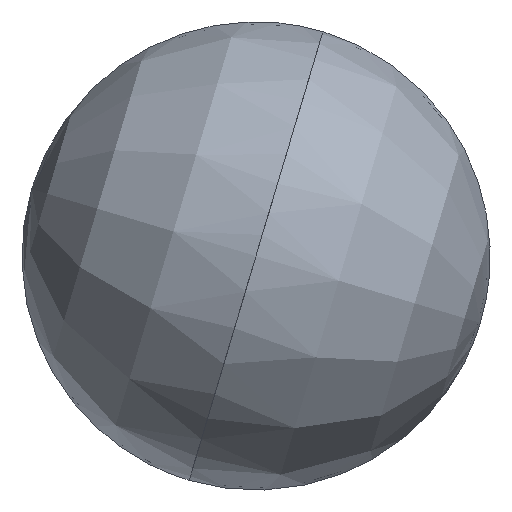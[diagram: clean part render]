
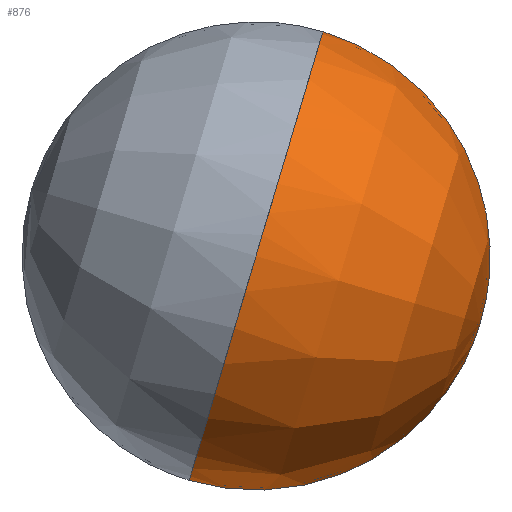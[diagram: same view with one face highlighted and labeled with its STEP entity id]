
A CAD part, front view. The second image highlights one B-rep face of the part: STEP entity #876.
In plain terms, the highlighted free-form (B-spline) face has degree [2, 2] with [5, 5] control points.
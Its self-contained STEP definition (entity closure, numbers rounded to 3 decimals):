
#876=ADVANCED_FACE('',(#2322),#23518,.T.);
#2322=FACE_OUTER_BOUND('',#3768,.T.);
#3768=EDGE_LOOP('',(#5325,#5326,#5327,#5328));
#5325=ORIENTED_EDGE('',*,*,#12878,.T.);
#5326=ORIENTED_EDGE('',*,*,#12808,.F.);
#5327=ORIENTED_EDGE('',*,*,#12804,.T.);
#5328=ORIENTED_EDGE('',*,*,#12805,.T.);
#12804=EDGE_CURVE('',#20277,#20278,#19551,.T.);
#12805=EDGE_CURVE('',#20278,#20316,#19552,.T.);
#12808=EDGE_CURVE('',#20277,#20275,#19555,.T.);
#12878=EDGE_CURVE('',#20316,#20275,#19584,.T.);
#19551=(
BOUNDED_CURVE()
B_SPLINE_CURVE(2,(#26567,#26568,#26569),.UNSPECIFIED.,.F.,.F.)
B_SPLINE_CURVE_WITH_KNOTS((3,3),(305.438,698.137),
 .UNSPECIFIED.)
CURVE()
GEOMETRIC_REPRESENTATION_ITEM()
RATIONAL_B_SPLINE_CURVE((1.,0.707,1.))
REPRESENTATION_ITEM('')
);
#19552=(
BOUNDED_CURVE()
B_SPLINE_CURVE(2,(#26570,#26571,#26572),.UNSPECIFIED.,.F.,.F.)
B_SPLINE_CURVE_WITH_KNOTS((3,3),(0.,392.699),.UNSPECIFIED.)
CURVE()
GEOMETRIC_REPRESENTATION_ITEM()
RATIONAL_B_SPLINE_CURVE((1.,0.707,1.))
REPRESENTATION_ITEM('')
);
#19555=(
BOUNDED_CURVE()
B_SPLINE_CURVE(2,(#26579,#26580,#26581),.UNSPECIFIED.,.F.,.F.)
B_SPLINE_CURVE_WITH_KNOTS((3,3),(392.699,785.398),
 .UNSPECIFIED.)
CURVE()
GEOMETRIC_REPRESENTATION_ITEM()
RATIONAL_B_SPLINE_CURVE((1.,0.707,1.))
REPRESENTATION_ITEM('')
);
#19584=(
BOUNDED_CURVE()
B_SPLINE_CURVE(2,(#26956,#26957,#26958),.UNSPECIFIED.,.F.,.F.)
B_SPLINE_CURVE_WITH_KNOTS((3,3),(392.699,785.398),
 .UNSPECIFIED.)
CURVE()
GEOMETRIC_REPRESENTATION_ITEM()
RATIONAL_B_SPLINE_CURVE((1.,0.707,1.))
REPRESENTATION_ITEM('')
);
#20275=VERTEX_POINT('',#26366);
#20277=VERTEX_POINT('',#26368);
#20278=VERTEX_POINT('',#26369);
#20316=VERTEX_POINT('',#26407);
#23518=(
BOUNDED_SURFACE()
B_SPLINE_SURFACE(2,2,((#25737,#25738,#25739,#25740,#25741),(#25742,#25743,
#25744,#25745,#25746),(#25747,#25748,#25749,#25750,#25751),(#25752,#25753,
#25754,#25755,#25756),(#25757,#25758,#25759,#25760,#25761)),
 .UNSPECIFIED.,.F.,.F.,.F.)
B_SPLINE_SURFACE_WITH_KNOTS((3,2,3),(3,2,3),(0.,392.699,785.398),
(0.,392.699,785.398),.UNSPECIFIED.)
GEOMETRIC_REPRESENTATION_ITEM()
RATIONAL_B_SPLINE_SURFACE(((1.,0.707,1.,0.707,1.),
(0.707,0.5,0.707,0.5,0.707),(1.,0.707,
1.,0.707,1.),(0.707,0.5,0.707,0.5,0.707),
(1.,0.707,1.,0.707,1.)))
REPRESENTATION_ITEM('')
SURFACE()
);
#25737=CARTESIAN_POINT('',(0.,0.,250.));
#25738=CARTESIAN_POINT('',(250.,0.,250.));
#25739=CARTESIAN_POINT('',(250.,0.,0.));
#25740=CARTESIAN_POINT('',(250.,0.,-250.));
#25741=CARTESIAN_POINT('',(0.,0.,-250.));
#25742=CARTESIAN_POINT('',(0.,0.,250.));
#25743=CARTESIAN_POINT('',(250.,-250.,250.));
#25744=CARTESIAN_POINT('',(250.,-250.,0.));
#25745=CARTESIAN_POINT('',(250.,-250.,-250.));
#25746=CARTESIAN_POINT('',(0.,0.,-250.));
#25747=CARTESIAN_POINT('',(0.,0.,250.));
#25748=CARTESIAN_POINT('',(0.,-250.,250.));
#25749=CARTESIAN_POINT('',(0.,-250.,0.));
#25750=CARTESIAN_POINT('',(0.,-250.,-250.));
#25751=CARTESIAN_POINT('',(0.,0.,-250.));
#25752=CARTESIAN_POINT('',(0.,0.,250.));
#25753=CARTESIAN_POINT('',(-250.,-250.,250.));
#25754=CARTESIAN_POINT('',(-250.,-250.,0.));
#25755=CARTESIAN_POINT('',(-250.,-250.,-250.));
#25756=CARTESIAN_POINT('',(0.,0.,-250.));
#25757=CARTESIAN_POINT('',(0.,0.,250.));
#25758=CARTESIAN_POINT('',(-250.,0.,250.));
#25759=CARTESIAN_POINT('',(-250.,0.,0.));
#25760=CARTESIAN_POINT('',(-250.,0.,-250.));
#25761=CARTESIAN_POINT('',(0.,0.,-250.));
#26366=CARTESIAN_POINT('',(0.,0.,-250.));
#26368=CARTESIAN_POINT('',(250.,0.,0.));
#26369=CARTESIAN_POINT('',(0.,-250.,0.));
#26407=CARTESIAN_POINT('',(-250.,0.,0.));
#26567=CARTESIAN_POINT('',(250.,0.,0.));
#26568=CARTESIAN_POINT('',(250.,-250.,0.));
#26569=CARTESIAN_POINT('',(0.,-250.,0.));
#26570=CARTESIAN_POINT('',(0.,-250.,0.));
#26571=CARTESIAN_POINT('',(-250.,-250.,0.));
#26572=CARTESIAN_POINT('',(-250.,0.,0.));
#26579=CARTESIAN_POINT('',(250.,0.,0.));
#26580=CARTESIAN_POINT('',(250.,0.,-250.));
#26581=CARTESIAN_POINT('',(0.,0.,-250.));
#26956=CARTESIAN_POINT('',(-250.,0.,0.));
#26957=CARTESIAN_POINT('',(-250.,0.,-250.));
#26958=CARTESIAN_POINT('',(0.,0.,-250.));
